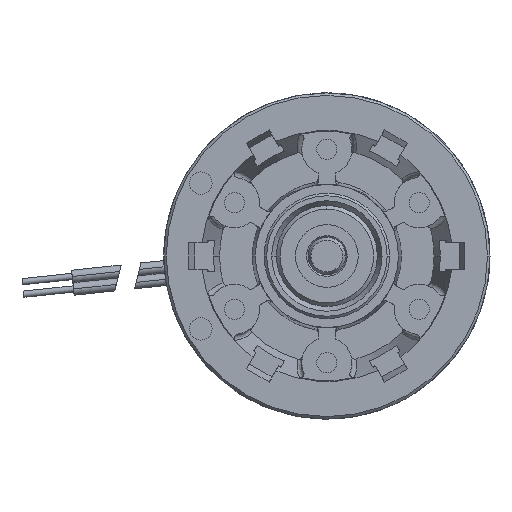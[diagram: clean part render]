
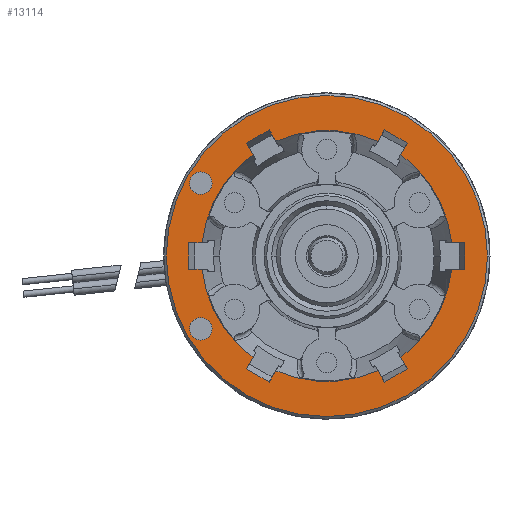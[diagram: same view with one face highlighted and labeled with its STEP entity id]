
A CAD part, left-side view. The second image highlights one B-rep face of the part: STEP entity #13114.
In plain terms, the highlighted planar face has unit normal (-1, 0, 0).
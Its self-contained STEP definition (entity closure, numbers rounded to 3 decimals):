
#4733=CARTESIAN_POINT('',(-1.6,9.945,1.05));
#4743=CARTESIAN_POINT('',(-1.6,0.,0.));
#4744=DIRECTION('',(1.,0.,0.));
#4745=DIRECTION('',(0.,0.994,0.105));
#4746=AXIS2_PLACEMENT_3D('',#4743,#4744,#4745);
#4797=CARTESIAN_POINT('',(-1.6,4.063,9.137));
#4807=CARTESIAN_POINT('',(-1.6,0.,0.));
#4808=DIRECTION('',(1.,0.,0.));
#4809=DIRECTION('',(0.,0.406,0.914));
#4810=AXIS2_PLACEMENT_3D('',#4807,#4808,#4809);
#4861=CARTESIAN_POINT('',(-1.6,-5.882,8.087));
#4871=CARTESIAN_POINT('',(-1.6,0.,0.));
#4872=DIRECTION('',(1.,0.,0.));
#4873=DIRECTION('',(0.,-0.588,0.809));
#4874=AXIS2_PLACEMENT_3D('',#4871,#4872,#4873);
#4935=CARTESIAN_POINT('',(-1.6,0.,0.));
#4936=DIRECTION('',(-1.,0.,0.));
#4937=DIRECTION('',(0.,0.994,-0.105));
#4938=AXIS2_PLACEMENT_3D('',#4935,#4936,#4937);
#4948=CARTESIAN_POINT('',(-1.6,9.945,-1.05));
#5075=CARTESIAN_POINT('',(-1.6,-9.945,-1.05));
#5085=CARTESIAN_POINT('',(-1.6,0.,0.));
#5086=DIRECTION('',(-1.,0.,0.));
#5087=DIRECTION('',(0.,-0.588,-0.809));
#5088=AXIS2_PLACEMENT_3D('',#5085,#5086,#5087);
#5139=CARTESIAN_POINT('',(-1.6,-4.063,-9.137));
#5149=CARTESIAN_POINT('',(-1.6,0.,0.));
#5150=DIRECTION('',(-1.,0.,0.));
#5151=DIRECTION('',(0.,0.406,-0.914));
#5152=AXIS2_PLACEMENT_3D('',#5149,#5150,#5151);
#5220=CARTESIAN_POINT('',(-1.6,0.,0.));
#5221=DIRECTION('',(-1.,0.,0.));
#5222=DIRECTION('',(0.,1.,0.));
#5223=AXIS2_PLACEMENT_3D('',#5220,#5221,#5222);
#5228=CARTESIAN_POINT('',(-1.6,0.,0.));
#5229=DIRECTION('',(-1.,0.,0.));
#5230=DIRECTION('',(0.,-1.,0.));
#5231=AXIS2_PLACEMENT_3D('',#5228,#5229,#5230);
#5236=CARTESIAN_POINT('',(-1.6,10.05,5.8));
#5237=DIRECTION('',(-1.,0.,0.));
#5238=DIRECTION('',(0.,0.,1.));
#5239=AXIS2_PLACEMENT_3D('',#5236,#5237,#5238);
#5244=CARTESIAN_POINT('',(-1.6,10.05,5.8));
#5245=DIRECTION('',(-1.,0.,0.));
#5246=DIRECTION('',(0.,0.,-1.));
#5247=AXIS2_PLACEMENT_3D('',#5244,#5245,#5246);
#5252=CARTESIAN_POINT('',(-1.6,10.05,-5.8));
#5253=DIRECTION('',(-1.,0.,0.));
#5254=DIRECTION('',(0.,0.,1.));
#5255=AXIS2_PLACEMENT_3D('',#5252,#5253,#5254);
#5260=CARTESIAN_POINT('',(-1.6,10.05,-5.8));
#5261=DIRECTION('',(-1.,0.,0.));
#5262=DIRECTION('',(0.,0.,-1.));
#5263=AXIS2_PLACEMENT_3D('',#5260,#5261,#5262);
#5268=DIRECTION('',(0.,-0.5,0.866));
#5269=VECTOR('',#5268,1.055);
#5270=CARTESIAN_POINT('',(-1.6,4.591,-10.051));
#5271=LINE('',#5270,#5269);
#5275=DIRECTION('',(0.,-0.5,-0.866));
#5276=VECTOR('',#5275,1.055);
#5277=CARTESIAN_POINT('',(-1.6,-4.063,-9.137));
#5278=LINE('',#5277,#5276);
#5282=DIRECTION('',(0.,0.866,-0.5));
#5283=VECTOR('',#5282,2.1);
#5284=CARTESIAN_POINT('',(-1.6,-6.409,-9.001));
#5285=LINE('',#5284,#5283);
#5289=DIRECTION('',(0.,0.5,0.866));
#5290=VECTOR('',#5289,1.055);
#5291=CARTESIAN_POINT('',(-1.6,-6.409,-9.001));
#5292=LINE('',#5291,#5290);
#5296=DIRECTION('',(0.,-1.,0.));
#5297=VECTOR('',#5296,1.055);
#5298=CARTESIAN_POINT('',(-1.6,-9.945,-1.05));
#5299=LINE('',#5298,#5297);
#5303=DIRECTION('',(0.,0.,-1.));
#5304=VECTOR('',#5303,2.1);
#5305=CARTESIAN_POINT('',(-1.6,-11.,1.05));
#5306=LINE('',#5305,#5304);
#5310=DIRECTION('',(0.,1.,0.));
#5311=VECTOR('',#5310,1.055);
#5312=CARTESIAN_POINT('',(-1.6,-11.,1.05));
#5313=LINE('',#5312,#5311);
#5317=DIRECTION('',(0.,-0.5,0.866));
#5318=VECTOR('',#5317,1.055);
#5319=CARTESIAN_POINT('',(-1.6,-5.882,8.087));
#5320=LINE('',#5319,#5318);
#5324=DIRECTION('',(0.,-0.866,-0.5));
#5325=VECTOR('',#5324,2.1);
#5326=CARTESIAN_POINT('',(-1.6,-4.591,10.051));
#5327=LINE('',#5326,#5325);
#5331=DIRECTION('',(0.,0.5,-0.866));
#5332=VECTOR('',#5331,1.055);
#5333=CARTESIAN_POINT('',(-1.6,-4.591,10.051));
#5334=LINE('',#5333,#5332);
#5338=DIRECTION('',(0.,0.5,0.866));
#5339=VECTOR('',#5338,1.055);
#5340=CARTESIAN_POINT('',(-1.6,4.063,9.137));
#5341=LINE('',#5340,#5339);
#5345=DIRECTION('',(0.,-0.866,0.5));
#5346=VECTOR('',#5345,2.1);
#5347=CARTESIAN_POINT('',(-1.6,6.409,9.001));
#5348=LINE('',#5347,#5346);
#5352=DIRECTION('',(0.,-0.5,-0.866));
#5353=VECTOR('',#5352,1.055);
#5354=CARTESIAN_POINT('',(-1.6,6.409,9.001));
#5355=LINE('',#5354,#5353);
#5359=DIRECTION('',(0.,1.,0.));
#5360=VECTOR('',#5359,1.055);
#5361=CARTESIAN_POINT('',(-1.6,9.945,1.05));
#5362=LINE('',#5361,#5360);
#5366=DIRECTION('',(0.,0.,1.));
#5367=VECTOR('',#5366,2.1);
#5368=CARTESIAN_POINT('',(-1.6,11.,-1.05));
#5369=LINE('',#5368,#5367);
#5373=DIRECTION('',(0.,-1.,0.));
#5374=VECTOR('',#5373,1.055);
#5375=CARTESIAN_POINT('',(-1.6,11.,-1.05));
#5376=LINE('',#5375,#5374);
#5380=DIRECTION('',(0.,0.5,-0.866));
#5381=VECTOR('',#5380,1.055);
#5382=CARTESIAN_POINT('',(-1.6,5.882,-8.087));
#5383=LINE('',#5382,#5381);
#5387=DIRECTION('',(0.,0.866,0.5));
#5388=VECTOR('',#5387,2.1);
#5389=CARTESIAN_POINT('',(-1.6,4.591,-10.051));
#5390=LINE('',#5389,#5388);
#8884=CARTESIAN_POINT('',(-1.6,12.8,0.));
#8885=CARTESIAN_POINT('',(-1.6,-12.8,0.));
#8886=VERTEX_POINT('',#8884);
#8887=VERTEX_POINT('',#8885);
#8900=CARTESIAN_POINT('',(-1.6,10.05,6.7));
#8901=CARTESIAN_POINT('',(-1.6,10.05,4.9));
#8902=VERTEX_POINT('',#8900);
#8903=VERTEX_POINT('',#8901);
#8904=CARTESIAN_POINT('',(-1.6,10.05,-4.9));
#8905=CARTESIAN_POINT('',(-1.6,10.05,-6.7));
#8906=VERTEX_POINT('',#8904);
#8907=VERTEX_POINT('',#8905);
#9134=VERTEX_POINT('',#4733);
#9135=VERTEX_POINT('',#4948);
#9136=CARTESIAN_POINT('',(-1.6,11.,-1.05));
#9137=VERTEX_POINT('',#9136);
#9138=CARTESIAN_POINT('',(-1.6,11.,1.05));
#9139=VERTEX_POINT('',#9138);
#9224=CARTESIAN_POINT('',(-1.6,5.882,8.087));
#9225=VERTEX_POINT('',#9224);
#9230=VERTEX_POINT('',#4797);
#9231=CARTESIAN_POINT('',(-1.6,6.409,9.001));
#9232=VERTEX_POINT('',#9231);
#9233=CARTESIAN_POINT('',(-1.6,4.591,10.051));
#9234=VERTEX_POINT('',#9233);
#9239=CARTESIAN_POINT('',(-1.6,-4.063,9.137));
#9240=VERTEX_POINT('',#9239);
#9245=VERTEX_POINT('',#4861);
#9246=CARTESIAN_POINT('',(-1.6,-4.591,10.051));
#9247=VERTEX_POINT('',#9246);
#9248=CARTESIAN_POINT('',(-1.6,-6.409,9.001));
#9249=VERTEX_POINT('',#9248);
#9256=CARTESIAN_POINT('',(-1.6,-9.945,1.05));
#9257=VERTEX_POINT('',#9256);
#9266=VERTEX_POINT('',#5075);
#9267=CARTESIAN_POINT('',(-1.6,-11.,1.05));
#9268=VERTEX_POINT('',#9267);
#9269=CARTESIAN_POINT('',(-1.6,-11.,-1.05));
#9270=VERTEX_POINT('',#9269);
#9275=CARTESIAN_POINT('',(-1.6,-5.882,-8.087));
#9276=VERTEX_POINT('',#9275);
#9281=VERTEX_POINT('',#5139);
#9282=CARTESIAN_POINT('',(-1.6,-6.409,-9.001));
#9283=VERTEX_POINT('',#9282);
#9284=CARTESIAN_POINT('',(-1.6,-4.591,-10.051));
#9285=VERTEX_POINT('',#9284);
#9290=CARTESIAN_POINT('',(-1.6,5.882,-8.087));
#9291=VERTEX_POINT('',#9290);
#9292=CARTESIAN_POINT('',(-1.6,4.063,-9.137));
#9293=VERTEX_POINT('',#9292);
#9298=CARTESIAN_POINT('',(-1.6,4.591,-10.051));
#9299=VERTEX_POINT('',#9298);
#9300=CARTESIAN_POINT('',(-1.6,6.409,-9.001));
#9301=VERTEX_POINT('',#9300);
#13049=CARTESIAN_POINT('',(-1.6,0.,0.));
#13050=DIRECTION('',(1.,0.,0.));
#13051=DIRECTION('',(0.,-1.,0.));
#13052=AXIS2_PLACEMENT_3D('',#13049,#13050,#13051);
#13053=PLANE('',#13052);
#13055=ORIENTED_EDGE('',*,*,#13054,.F.);
#13057=ORIENTED_EDGE('',*,*,#13056,.F.);
#13058=EDGE_LOOP('',(#13055,#13057));
#13059=FACE_OUTER_BOUND('',#13058,.F.);
#13061=ORIENTED_EDGE('',*,*,#13060,.T.);
#13063=ORIENTED_EDGE('',*,*,#13062,.T.);
#13064=EDGE_LOOP('',(#13061,#13063));
#13065=FACE_BOUND('',#13064,.F.);
#13067=ORIENTED_EDGE('',*,*,#13066,.T.);
#13069=ORIENTED_EDGE('',*,*,#13068,.T.);
#13070=EDGE_LOOP('',(#13067,#13069));
#13071=FACE_BOUND('',#13070,.F.);
#13072=ORIENTED_EDGE('',*,*,#13016,.T.);
#13073=ORIENTED_EDGE('',*,*,#12939,.T.);
#13075=ORIENTED_EDGE('',*,*,#13074,.T.);
#13077=ORIENTED_EDGE('',*,*,#13076,.F.);
#13079=ORIENTED_EDGE('',*,*,#13078,.T.);
#13080=ORIENTED_EDGE('',*,*,#12923,.T.);
#13082=ORIENTED_EDGE('',*,*,#13081,.T.);
#13084=ORIENTED_EDGE('',*,*,#13083,.F.);
#13086=ORIENTED_EDGE('',*,*,#13085,.T.);
#13087=ORIENTED_EDGE('',*,*,#12849,.F.);
#13089=ORIENTED_EDGE('',*,*,#13088,.T.);
#13091=ORIENTED_EDGE('',*,*,#13090,.F.);
#13093=ORIENTED_EDGE('',*,*,#13092,.T.);
#13094=ORIENTED_EDGE('',*,*,#12833,.F.);
#13096=ORIENTED_EDGE('',*,*,#13095,.T.);
#13098=ORIENTED_EDGE('',*,*,#13097,.F.);
#13100=ORIENTED_EDGE('',*,*,#13099,.T.);
#13101=ORIENTED_EDGE('',*,*,#12817,.F.);
#13103=ORIENTED_EDGE('',*,*,#13102,.T.);
#13105=ORIENTED_EDGE('',*,*,#13104,.F.);
#13107=ORIENTED_EDGE('',*,*,#13106,.T.);
#13108=ORIENTED_EDGE('',*,*,#12878,.T.);
#13110=ORIENTED_EDGE('',*,*,#13109,.T.);
#13111=ORIENTED_EDGE('',*,*,#13033,.F.);
#13112=EDGE_LOOP('',(#13072,#13073,#13075,#13077,#13079,#13080,#13082,#13084,
#13086,#13087,#13089,#13091,#13093,#13094,#13096,#13098,#13100,#13101,#13103,
#13105,#13107,#13108,#13110,#13111));
#13113=FACE_BOUND('',#13112,.F.);
#13114=ADVANCED_FACE('',(#13059,#13065,#13071,#13113),#13053,.F.);
#4747=CIRCLE('',#4746,10.);
#4811=CIRCLE('',#4810,10.);
#4875=CIRCLE('',#4874,10.);
#4939=CIRCLE('',#4938,10.);
#5089=CIRCLE('',#5088,10.);
#5153=CIRCLE('',#5152,10.);
#5224=CIRCLE('',#5223,12.8);
#5232=CIRCLE('',#5231,12.8);
#5240=CIRCLE('',#5239,0.9);
#5248=CIRCLE('',#5247,0.9);
#5256=CIRCLE('',#5255,0.9);
#5264=CIRCLE('',#5263,0.9);
#12817=EDGE_CURVE('',#9134,#9225,#4747,.T.);
#12833=EDGE_CURVE('',#9230,#9240,#4811,.T.);
#12849=EDGE_CURVE('',#9245,#9257,#4875,.T.);
#12878=EDGE_CURVE('',#9135,#9291,#4939,.T.);
#12923=EDGE_CURVE('',#9276,#9266,#5089,.T.);
#12939=EDGE_CURVE('',#9293,#9281,#5153,.T.);
#13016=EDGE_CURVE('',#9299,#9293,#5271,.T.);
#13033=EDGE_CURVE('',#9299,#9301,#5390,.T.);
#13054=EDGE_CURVE('',#8886,#8887,#5224,.T.);
#13056=EDGE_CURVE('',#8887,#8886,#5232,.T.);
#13060=EDGE_CURVE('',#8902,#8903,#5240,.T.);
#13062=EDGE_CURVE('',#8903,#8902,#5248,.T.);
#13066=EDGE_CURVE('',#8906,#8907,#5256,.T.);
#13068=EDGE_CURVE('',#8907,#8906,#5264,.T.);
#13074=EDGE_CURVE('',#9281,#9285,#5278,.T.);
#13076=EDGE_CURVE('',#9283,#9285,#5285,.T.);
#13078=EDGE_CURVE('',#9283,#9276,#5292,.T.);
#13081=EDGE_CURVE('',#9266,#9270,#5299,.T.);
#13083=EDGE_CURVE('',#9268,#9270,#5306,.T.);
#13085=EDGE_CURVE('',#9268,#9257,#5313,.T.);
#13088=EDGE_CURVE('',#9245,#9249,#5320,.T.);
#13090=EDGE_CURVE('',#9247,#9249,#5327,.T.);
#13092=EDGE_CURVE('',#9247,#9240,#5334,.T.);
#13095=EDGE_CURVE('',#9230,#9234,#5341,.T.);
#13097=EDGE_CURVE('',#9232,#9234,#5348,.T.);
#13099=EDGE_CURVE('',#9232,#9225,#5355,.T.);
#13102=EDGE_CURVE('',#9134,#9139,#5362,.T.);
#13104=EDGE_CURVE('',#9137,#9139,#5369,.T.);
#13106=EDGE_CURVE('',#9137,#9135,#5376,.T.);
#13109=EDGE_CURVE('',#9291,#9301,#5383,.T.);
